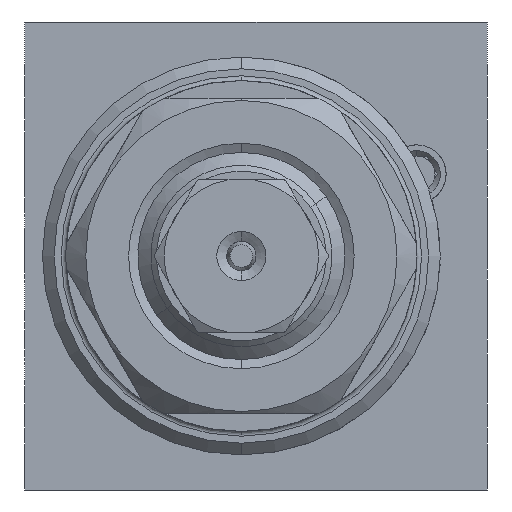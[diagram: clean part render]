
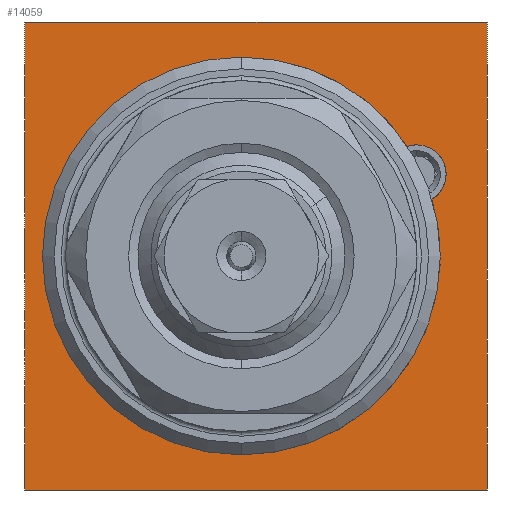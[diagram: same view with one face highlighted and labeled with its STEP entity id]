
A CAD part, left-side view. The second image highlights one B-rep face of the part: STEP entity #14059.
In plain terms, the highlighted planar face has unit normal (-1, 0, 0).
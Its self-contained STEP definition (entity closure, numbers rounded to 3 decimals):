
#877 = CARTESIAN_POINT ( 'NONE',  ( 0., -19.75, -20.707 ) ) ;
#951 = VECTOR ( 'NONE', #21401, 1000. ) ;
#1195 = LINE ( 'NONE', #16292, #951 ) ;
#1436 = DIRECTION ( 'NONE',  ( -1., 0., 0. ) ) ;
#1527 = CARTESIAN_POINT ( 'NONE',  ( 0., -19.75, -20. ) ) ;
#1649 = VERTEX_POINT ( 'NONE', #4787 ) ;
#2027 = EDGE_CURVE ( 'NONE', #18175, #3161, #5785, .T. ) ;
#2036 = VERTEX_POINT ( 'NONE', #1527 ) ;
#2958 = ORIENTED_EDGE ( 'NONE', *, *, #8830, .F. ) ;
#2978 = ORIENTED_EDGE ( 'NONE', *, *, #9563, .F. ) ;
#3111 = CARTESIAN_POINT ( 'NONE',  ( 0., -13.75, 7. ) ) ;
#3161 = VERTEX_POINT ( 'NONE', #6330 ) ;
#3246 = ORIENTED_EDGE ( 'NONE', *, *, #18953, .F. ) ;
#3300 = ORIENTED_EDGE ( 'NONE', *, *, #2027, .F. ) ;
#3324 = ORIENTED_EDGE ( 'NONE', *, *, #3769, .F. ) ;
#3358 = ORIENTED_EDGE ( 'NONE', *, *, #8413, .T. ) ;
#3392 = CARTESIAN_POINT ( 'NONE',  ( 0., -13.75, 7. ) ) ;
#3465 = ORIENTED_EDGE ( 'NONE', *, *, #6172, .T. ) ;
#3526 = ORIENTED_EDGE ( 'NONE', *, *, #5071, .F. ) ;
#3611 = ORIENTED_EDGE ( 'NONE', *, *, #3955, .F. ) ;
#3769 = EDGE_CURVE ( 'NONE', #3161, #1649, #7176, .T. ) ;
#3921 = AXIS2_PLACEMENT_3D ( 'NONE', #16948, #6802, #18665 ) ;
#3955 = EDGE_CURVE ( 'NONE', #13120, #8367, #13988, .T. ) ;
#4006 = DIRECTION ( 'NONE',  ( -1., 0., 0. ) ) ;
#4682 = LINE ( 'NONE', #877, #16212 ) ;
#4735 = EDGE_LOOP ( 'NONE', ( #3611, #3526, #3465, #3358 ) ) ;
#4781 = DIRECTION ( 'NONE',  ( 0., 0., 1. ) ) ;
#4787 = CARTESIAN_POINT ( 'NONE',  ( 0., -13.75, 9.5 ) ) ;
#5052 = DIRECTION ( 'NONE',  ( 0., 0., 1. ) ) ;
#5071 = EDGE_CURVE ( 'NONE', #2036, #13120, #20691, .T. ) ;
#5422 = CARTESIAN_POINT ( 'NONE',  ( 0., -19.75, 20. ) ) ;
#5785 = CIRCLE ( 'NONE', #18054, 17. ) ;
#5899 = CARTESIAN_POINT ( 'NONE',  ( 0., -20.457, -20. ) ) ;
#6172 = EDGE_CURVE ( 'NONE', #2036, #21780, #4682, .T. ) ;
#6330 = CARTESIAN_POINT ( 'NONE',  ( 0., -15.041, 4.859 ) ) ;
#6802 = DIRECTION ( 'NONE',  ( -1., 0., 0. ) ) ;
#6918 = CARTESIAN_POINT ( 'NONE',  ( 0., 19.75, -20. ) ) ;
#7176 = CIRCLE ( 'NONE', #13778, 2.5 ) ;
#8367 = VERTEX_POINT ( 'NONE', #13796 ) ;
#8413 = EDGE_CURVE ( 'NONE', #21780, #8367, #1195, .T. ) ;
#8670 = CIRCLE ( 'NONE', #3921, 17. ) ;
#8830 = EDGE_CURVE ( 'NONE', #1649, #20577, #20925, .T. ) ;
#9357 = AXIS2_PLACEMENT_3D ( 'NONE', #3111, #14889, #4781 ) ;
#9563 = EDGE_CURVE ( 'NONE', #20577, #15145, #8670, .T. ) ;
#9572 = DIRECTION ( 'NONE',  ( 0., 0., 1. ) ) ;
#10623 = VECTOR ( 'NONE', #17730, 1000. ) ;
#10659 = AXIS2_PLACEMENT_3D ( 'NONE', #14148, #4006, #15785 ) ;
#11242 = CARTESIAN_POINT ( 'NONE',  ( 0., 19.75, -20.707 ) ) ;
#11440 = CIRCLE ( 'NONE', #10659, 17. ) ;
#11468 = CARTESIAN_POINT ( 'NONE',  ( 0., 19.75, -20. ) ) ;
#13120 = VERTEX_POINT ( 'NONE', #6918 ) ;
#13240 = DIRECTION ( 'NONE',  ( 0., 0., 1. ) ) ;
#13329 = DIRECTION ( 'NONE',  ( 0., 0., 1. ) ) ;
#13778 = AXIS2_PLACEMENT_3D ( 'NONE', #3392, #15161, #5052 ) ;
#13796 = CARTESIAN_POINT ( 'NONE',  ( 0., 19.75, 20. ) ) ;
#13960 = VECTOR ( 'NONE', #9572, 1000. ) ;
#13988 = LINE ( 'NONE', #11242, #13960 ) ;
#14055 = FACE_BOUND ( 'NONE', #15258, .T. ) ;
#14059 = ADVANCED_FACE ( 'NONE', ( #21963, #14055 ), #21567, .T. ) ;
#14148 = CARTESIAN_POINT ( 'NONE',  ( 0., 1.25, 0. ) ) ;
#14889 = DIRECTION ( 'NONE',  ( -1., 0., 0. ) ) ;
#15145 = VERTEX_POINT ( 'NONE', #16258 ) ;
#15161 = DIRECTION ( 'NONE',  ( -1., 0., 0. ) ) ;
#15258 = EDGE_LOOP ( 'NONE', ( #3324, #3300, #3246, #2978, #2958 ) ) ;
#15580 = CARTESIAN_POINT ( 'NONE',  ( 0., -12.938, 9.365 ) ) ;
#15624 = CARTESIAN_POINT ( 'NONE',  ( 0., 1.25, -17. ) ) ;
#15785 = DIRECTION ( 'NONE',  ( 0., 0., 1. ) ) ;
#16212 = VECTOR ( 'NONE', #21079, 1000. ) ;
#16258 = CARTESIAN_POINT ( 'NONE',  ( 0., 1.25, 17. ) ) ;
#16292 = CARTESIAN_POINT ( 'NONE',  ( 0., -20.457, 20. ) ) ;
#16948 = CARTESIAN_POINT ( 'NONE',  ( 0., 1.25, 0. ) ) ;
#17189 = AXIS2_PLACEMENT_3D ( 'NONE', #11468, #1436, #13240 ) ;
#17730 = DIRECTION ( 'NONE',  ( 0., 1., 0. ) ) ;
#18054 = AXIS2_PLACEMENT_3D ( 'NONE', #18585, #20945, #13329 ) ;
#18175 = VERTEX_POINT ( 'NONE', #15624 ) ;
#18585 = CARTESIAN_POINT ( 'NONE',  ( 0., 1.25, 0. ) ) ;
#18665 = DIRECTION ( 'NONE',  ( 0., 0., 1. ) ) ;
#18953 = EDGE_CURVE ( 'NONE', #15145, #18175, #11440, .T. ) ;
#20577 = VERTEX_POINT ( 'NONE', #15580 ) ;
#20691 = LINE ( 'NONE', #5899, #10623 ) ;
#20925 = CIRCLE ( 'NONE', #9357, 2.5 ) ;
#20945 = DIRECTION ( 'NONE',  ( -1., 0., 0. ) ) ;
#21079 = DIRECTION ( 'NONE',  ( 0., 0., 1. ) ) ;
#21401 = DIRECTION ( 'NONE',  ( 0., 1., 0. ) ) ;
#21567 = PLANE ( 'NONE',  #17189 ) ;
#21780 = VERTEX_POINT ( 'NONE', #5422 ) ;
#21963 = FACE_OUTER_BOUND ( 'NONE', #4735, .T. ) ;
